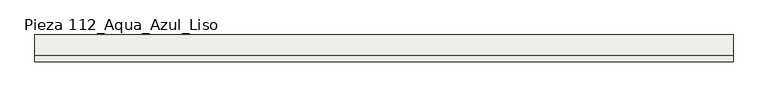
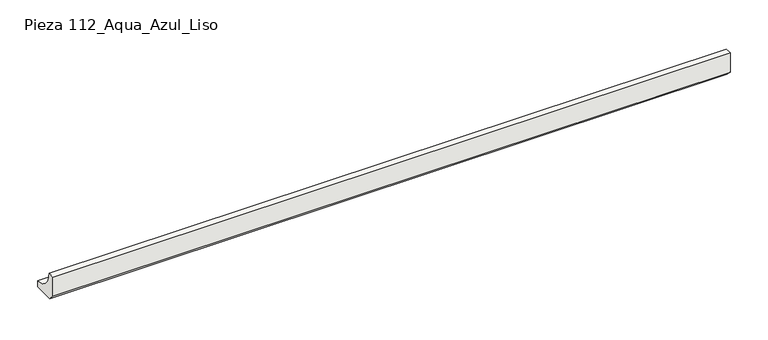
"""IFC4 building model written with IfcOpenShell, lengths in millimetres: slab geometry, ROSA GRES_112 : Pieza 112_Aqua_Azul_Liso."""

from ifc_helpers import new_model, si_unit, point, frame, frame_2d, origin, place, context, project, spatial, polyline, circle_curve, trimmed, segment, composite_curve, outline, extrude, source, transform, mapped, element, save


def pieza_112_aqua_azul_liso_a758a7d7(model_context):
    return source(origin(), model_context, "Body", "SweptSolid", [
        extrude(outline(composite_curve([segment(polyline([(0.0, 8.7114978), (0.0, 40.0), (9.9734114, 40.0)]), True, "CONTINUOUS"), segment(trimmed(circle_curve(frame_2d((39.9955547, 39.9955547)), 30.0221435), [point((9.9734114, 40.0))], [point((40.0, 9.9734114))], True, "CARTESIAN"), True, "CONTINUOUS"), segment(polyline([(40.0, 9.9734114), (40.0, 0.0), (8.7114978, 0.0), (0.0, 8.7114978)]), True, "CONTINUOUS")], self_intersect=False)), frame((0.0, 0.0, 0.0), z_axis=(1.0, 0.0, 0.0), x_axis=(0.0, 1.0, 0.0)), (0.0, 0.0, 1.0), 1034.0097475),
    ])


if __name__ == "__main__":
    model = new_model("IFC4")
    model_context = context("Model", 3, world=origin())
    ifc_project = project(units=[si_unit("LENGTHUNIT", "METRE", prefix="MILLI")], contexts=[model_context])
    site = spatial("IfcSite", under=ifc_project)
    building = spatial("IfcBuilding", under=site)
    placement = place(None, origin())
    pieza_112_aqua_azul_liso_shape = pieza_112_aqua_azul_liso_a758a7d7(model_context)
    element("IfcSlab", 1, ObjectType="ROSA GRES_112 : Pieza 112_Aqua_Azul_Liso", at=placement, inside=building, context=model_context, shape_type="MappedRepresentation", body=[
        mapped(pieza_112_aqua_azul_liso_shape, transform((0.0, 0.0, 0.0), x_axis=(1.0, 0.0, 0.0), y_axis=(0.0, 1.0, 0.0), z_axis=(0.0, 0.0, 1.0))),
    ])
    save(model, "model.ifc")
